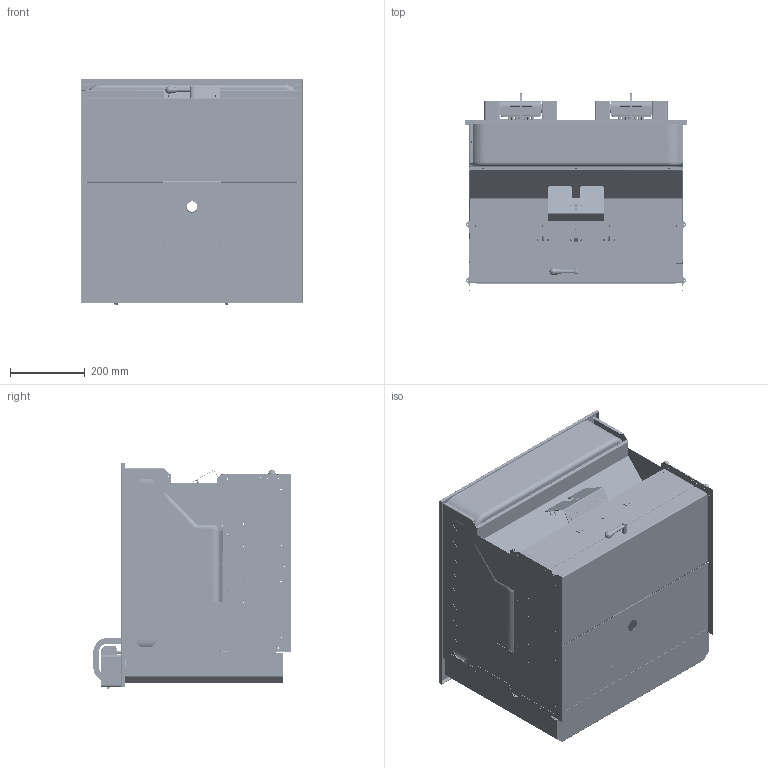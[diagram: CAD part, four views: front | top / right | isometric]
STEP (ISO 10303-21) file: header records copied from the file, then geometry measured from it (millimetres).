
FILE_DESCRIPTION (( 'STEP AP203' ), '1' );
FILE_NAME ('CORE600-E.stp', '2025-04-25T09:35:31', ( '' ), ( '' ), 'SwSTEP 2.0', 'SolidWorks 2024', '' );
FILE_SCHEMA (( 'CONFIG_CONTROL_DESIGN' ));
Products named in the file (1): CORE600-E
Bounding box: 598 x 529.54 x 605.03 mm (x, y, z)
Volume: 4849264.7 mm3; surface area: 6589546.1 mm2
Topology: 136 solids, 136 shells, 6027 faces, 15066 edges, 9332 vertices
Faces by surface type: plane 3152, cylinder 2401, torus 258, cone 151, bspline 55, sphere 10
Entity records: 183083 total; most frequent: CARTESIAN_POINT 34922, DIRECTION 32169, ORIENTED_EDGE 30080, EDGE_CURVE 15040, AXIS2_PLACEMENT_3D 11511, VERTEX_POINT 9332, VECTOR 9147, LINE 9147
